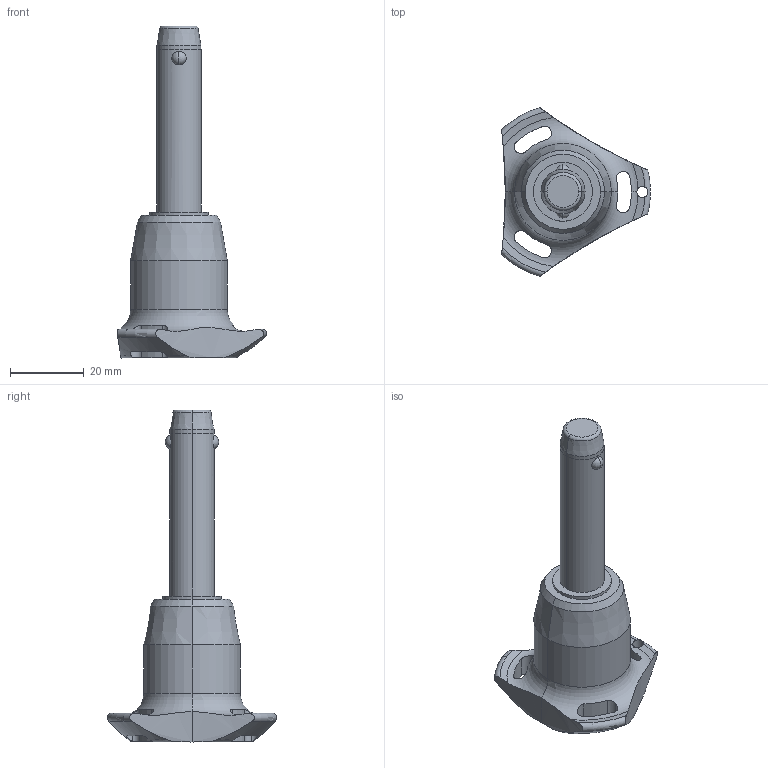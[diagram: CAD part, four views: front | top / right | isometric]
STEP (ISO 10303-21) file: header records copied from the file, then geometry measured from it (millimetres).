
FILE_DESCRIPTION (( 'STEP AP203' ), '1' );
FILE_NAME ('QR1726.M12-040-T.step', '2025-11-13T11:14:34', ( '' ), ( '' ), 'SwSTEP 2.0', 'SolidWorks 2019', '' );
FILE_SCHEMA (( 'CONFIG_CONTROL_DESIGN' ));
Length unit declared in the file: millimetre
Products named in the file (1): QR1726.M12-040-T
Bounding box: 40.5 x 45.88 x 90.3 mm (x, y, z)
Volume: 27658.7 mm3; surface area: 7845.8 mm2
Topology: 1 solids, 1 shells, 68 faces, 184 edges, 117 vertices
Faces by surface type: cylinder 32, cone 14, torus 11, sphere 6, plane 5
Entity records: 2942 total; most frequent: CARTESIAN_POINT 1186, ORIENTED_EDGE 368, DIRECTION 345, EDGE_CURVE 184, AXIS2_PLACEMENT_3D 154, VERTEX_POINT 117, CIRCLE 85, EDGE_LOOP 75
